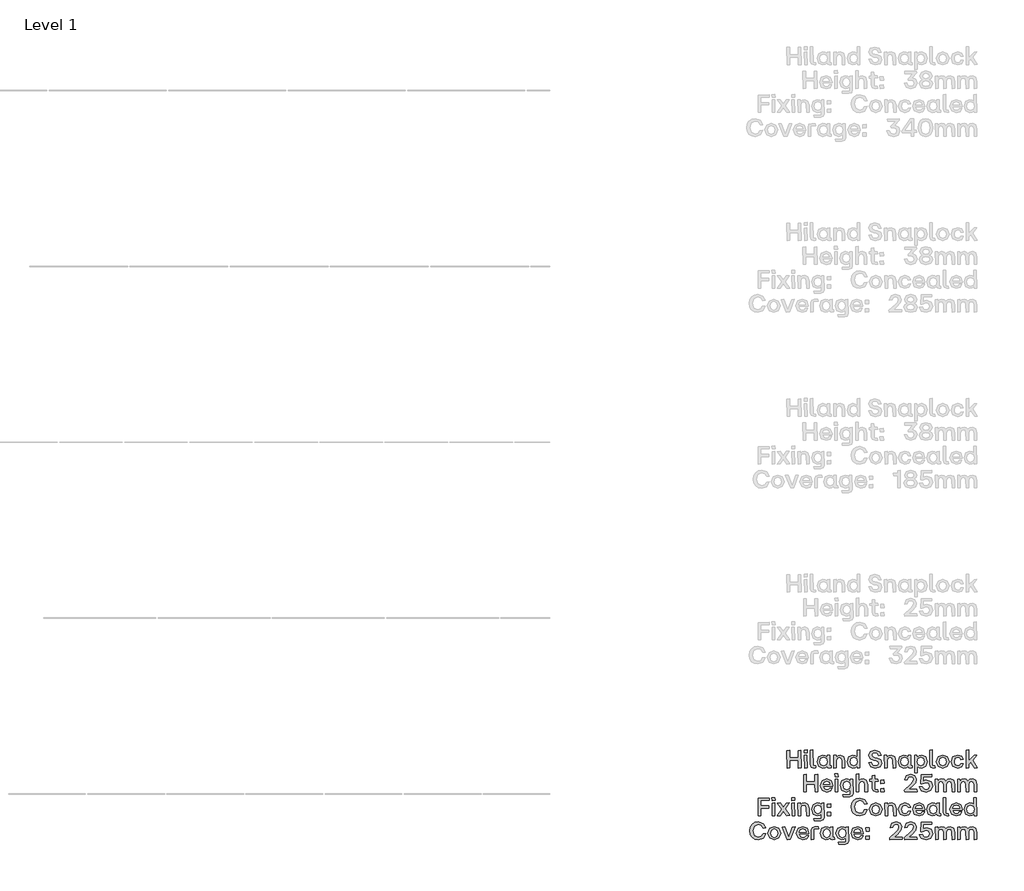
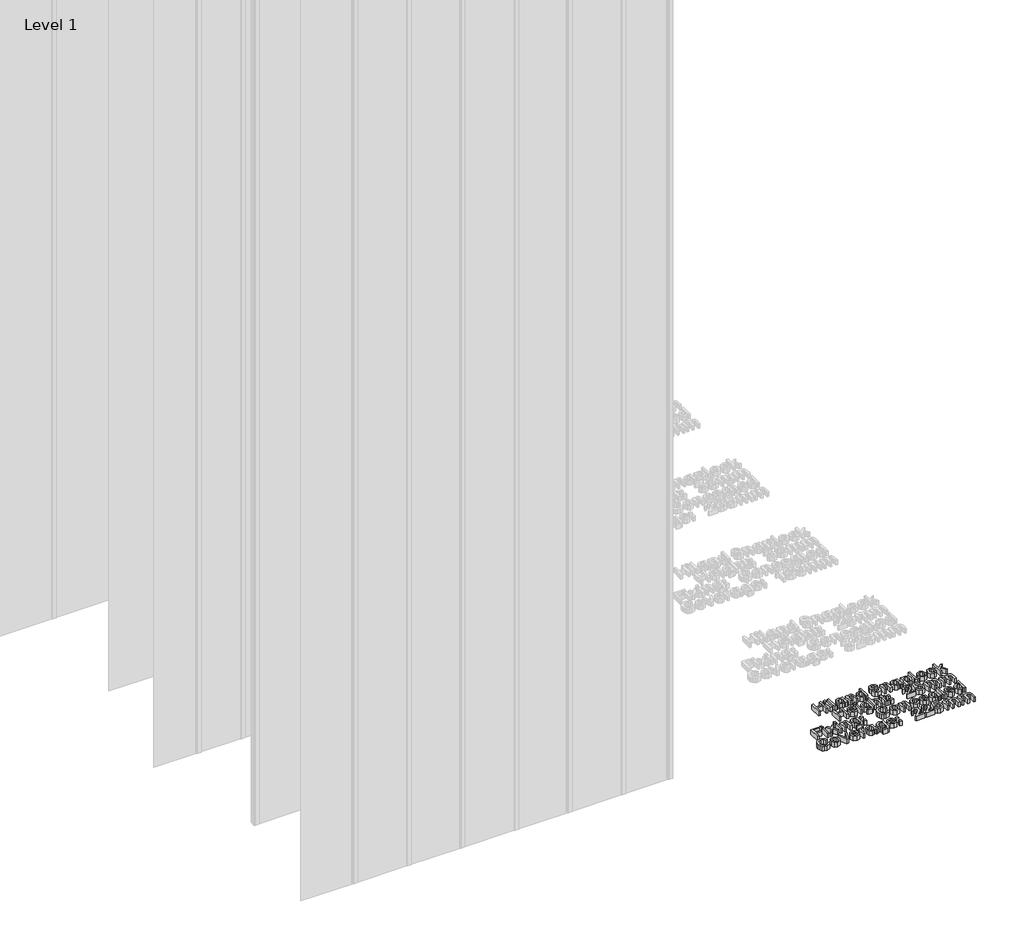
# One storey, part 16 of 64: 1 proxy.
"""IFC4 building model written with IfcOpenShell, lengths in millimetres."""

from ifc_helpers import new_model, si_unit, origin, origin_with_axes, place, context, project, spatial, polyline, outline, extrude, element, save

model = new_model("IFC4")

# Units and contexts
model_context = context("Model", 3, world=origin())
ifc_project = project(units=[si_unit("LENGTHUNIT", "METRE", prefix="MILLI")], contexts=[model_context])

# Site, building, storey
site = spatial("IfcSite", under=ifc_project)
building = spatial("IfcBuilding", under=site)
storey = spatial("IfcBuildingStorey", under=building, Name="Level 1", Elevation=0.0)

# Proxy
placement = place(None, origin())
element("IfcBuildingElementProxy", 1, Name="50mm", ObjectType="50mm", at=placement, inside=storey, context=model_context, shape_type="SweptSolid", body=[
    extrude(outline(polyline([(2488.8278866, -8933.5188866), (2488.1305548, -8911.5808277), (2464.2818068, -8911.5808277), (2464.2818068, -8932.8215548), (2456.7785164, -8933.5188866), (2456.0532913, -8884.2454206), (2463.542635, -8883.5201955), (2464.2818068, -8904.6075096), (2488.1305548, -8904.6075096), (2488.1305548, -8884.2454206), (2495.6198985, -8883.5201955), (2496.3172303, -8932.8215548), (2488.8278866, -8933.5188866)])), origin_with_axes(), (0.0, 0.0, 1.0), 20.0),
    extrude(outline(polyline([(2506.414595, -8933.5188866), (2505.6893699, -8897.8154977), (2512.8997809, -8897.1181659), (2513.5971127, -8932.8215548), (2506.414595, -8933.5188866)])), origin_with_axes(), (0.0, 0.0, 1.0), 20.0),
    extrude(outline(polyline([(2505.4801704, -8890.4516737), (2505.1315045, -8882.4044646), (2513.5273795, -8881.6652929), (2514.2665512, -8890.1030078), (2505.4801704, -8890.4516737)])), origin_with_axes(), (0.0, 0.0, 1.0), 20.0),
    extrude(outline(polyline([(2532.9968838, -8933.5188866), (2525.2983405, -8930.8690257), (2522.6484796, -8923.1565359), (2522.6484796, -8882.8228637), (2529.8588906, -8882.083692), (2530.5562224, -8927.2429003), (2537.2227146, -8927.2429003), (2537.9200464, -8932.8215548), (2532.9968838, -8933.5188866)])), origin_with_axes(), (0.0, 0.0, 1.0), 20.0),
    extrude(outline(polyline([(2558.0868825, -8933.9372857), (2546.3159214, -8928.8955767), (2541.9366776, -8915.3882594), (2546.3159214, -8901.7484491), (2558.0868825, -8896.6579269), (2564.7045614, -8898.2617901), (2569.6904839, -8902.6549805), (2570.0112565, -8897.8154977), (2577.1937742, -8897.1181659), (2577.9189993, -8927.2429003), (2581.8658973, -8927.2429003), (2582.5632291, -8932.8215548), (2576.5661755, -8933.5188866), (2571.9114857, -8932.2113895), (2570.3599224, -8928.288898), (2565.0044141, -8932.3334225), (2558.0868825, -8933.9372857)]), holes=[polyline([(2549.9978334, -8915.3882594), (2552.7522941, -8924.2792401), (2560.2765044, -8927.521833), (2567.6403283, -8924.2931867), (2570.2901892, -8915.3882594), (2567.6194084, -8906.392679), (2560.2765044, -8903.1152195), (2552.7522941, -8906.392679), (2549.9978334, -8915.3882594)])]), origin_with_axes(), (0.0, 0.0, 1.0), 20.0),
    extrude(outline(polyline([(2589.4249742, -8933.5188866), (2588.6997491, -8897.8154977), (2595.5614942, -8897.1181659), (2596.258826, -8902.6549805), (2601.4225681, -8898.1571903), (2608.0437337, -8896.6579269), (2617.6041528, -8900.8419178), (2620.916479, -8913.0870644), (2620.916479, -8932.8215548), (2613.6921214, -8933.5188866), (2612.9668963, -8913.0870644), (2611.0143672, -8905.7092939), (2604.8429806, -8903.3941522), (2598.6158075, -8905.7441604), (2596.6074919, -8913.0870644), (2596.6074919, -8932.8215548), (2589.4249742, -8933.5188866)])), origin_with_axes(), (0.0, 0.0, 1.0), 20.0),
    extrude(outline(polyline([(2643.7750158, -8933.9372857), (2632.0040548, -8928.8955767), (2627.624811, -8915.3882594), (2632.0040548, -8901.7484491), (2643.7750158, -8896.6579269), (2650.3926948, -8898.2617901), (2655.3786172, -8902.6549805), (2655.6993899, -8882.8228637), (2662.8819076, -8882.083692), (2663.6071326, -8932.8215548), (2656.7453876, -8933.5188866), (2656.0480558, -8928.0099653), (2650.6925474, -8932.3334225), (2643.7750158, -8933.9372857)]), holes=[polyline([(2635.6859668, -8915.3882594), (2638.4404275, -8924.2792401), (2645.9646377, -8927.521833), (2653.3284617, -8924.2931867), (2655.9783226, -8915.3882594), (2653.3075417, -8906.392679), (2645.9646377, -8903.1152195), (2638.4404275, -8906.392679), (2635.6859668, -8915.3882594)])]), origin_with_axes(), (0.0, 0.0, 1.0), 20.0),
    extrude(outline(polyline([(2707.7621831, -8933.9372857), (2694.1781594, -8929.823028), (2688.1950524, -8918.1078535), (2695.5588764, -8917.2989486), (2699.7219473, -8924.9417053), (2707.7621831, -8927.1034339), (2714.7145813, -8925.1160383), (2717.2040559, -8919.6001436), (2715.4816463, -8915.0186736), (2709.7147122, -8912.7383985), (2703.1179533, -8911.5808277), (2692.6370561, -8906.8180514), (2689.1434237, -8897.4668318), (2693.6202939, -8886.9022548), (2706.1164801, -8883.1017964), (2718.7102926, -8886.951068), (2724.3168404, -8897.8154977), (2716.9948564, -8898.610456), (2712.9712518, -8891.8672573), (2706.1164801, -8889.9635415), (2699.582481, -8891.706871), (2697.3300992, -8896.7973933), (2699.3384148, -8901.6299027), (2705.6283478, -8904.1612172), (2712.1832668, -8905.3048414), (2722.2806315, -8909.8932847), (2725.4046781, -8919.4606772), (2720.7116349, -8930.1019607), (2707.7621831, -8933.9372857)])), origin_with_axes(), (0.0, 0.0, 1.0), 20.0),
    extrude(outline(polyline([(2734.0236993, -8933.5188866), (2733.2984742, -8897.8154977), (2740.1602192, -8897.1181659), (2740.8575511, -8902.6549805), (2746.0212931, -8898.1571903), (2752.6424587, -8896.6579269), (2762.2028779, -8900.8419178), (2765.515204, -8913.0870644), (2765.515204, -8932.8215548), (2758.2908464, -8933.5188866), (2757.5656213, -8913.0870644), (2755.6130923, -8905.7092939), (2749.4417057, -8903.3941522), (2743.2145326, -8905.7441604), (2741.206217, -8913.0870644), (2741.206217, -8932.8215548), (2734.0236993, -8933.5188866)])), origin_with_axes(), (0.0, 0.0, 1.0), 20.0),
    extrude(outline(polyline([(2788.3737409, -8933.9372857), (2776.6027799, -8928.8955767), (2772.2235361, -8915.3882594), (2776.6027799, -8901.7484491), (2788.3737409, -8896.6579269), (2794.9914198, -8898.2617901), (2799.9773423, -8902.6549805), (2800.2981149, -8897.8154977), (2807.4806326, -8897.1181659), (2808.2058577, -8927.2429003), (2812.1527558, -8927.2429003), (2812.8500876, -8932.8215548), (2806.853034, -8933.5188866), (2802.1983441, -8932.2113895), (2800.6467808, -8928.288898), (2795.2912725, -8932.3334225), (2788.3737409, -8933.9372857)]), holes=[polyline([(2780.2846919, -8915.3882594), (2783.0391525, -8924.2792401), (2790.5633628, -8927.521833), (2797.9271868, -8924.2931867), (2800.5770477, -8915.3882594), (2797.9062668, -8906.392679), (2790.5633628, -8903.1152195), (2783.0391525, -8906.392679), (2780.2846919, -8915.3882594)])]), origin_with_axes(), (0.0, 0.0, 1.0), 20.0),
    extrude(outline(polyline([(2819.7118327, -8947.0750171), (2818.9866076, -8897.8154977), (2825.8483526, -8897.1181659), (2826.5456844, -8902.5852473), (2831.9011928, -8898.2617901), (2838.8187244, -8896.6579269), (2850.5896854, -8901.7135826), (2854.9689292, -8915.2487931), (2850.5896854, -8928.8607101), (2838.8187244, -8933.9372857), (2832.2010455, -8932.3334225), (2827.215123, -8927.9402321), (2826.8943503, -8946.3776853), (2819.7118327, -8947.0750171)]), holes=[polyline([(2826.6154176, -8915.2487931), (2829.2861985, -8924.2443735), (2836.6291025, -8927.521833), (2844.1533128, -8924.2443735), (2846.9077734, -8915.2487931), (2844.1533128, -8906.3578124), (2836.6291025, -8903.1152195), (2829.2652785, -8906.3368925), (2826.6154176, -8915.2487931)])]), origin_with_axes(), (0.0, 0.0, 1.0), 20.0),
    extrude(outline(polyline([(2872.1790784, -8933.5188866), (2864.4805352, -8930.8690257), (2861.8306743, -8923.1565359), (2861.8306743, -8882.8228637), (2869.0410852, -8882.083692), (2869.738417, -8927.2429003), (2876.4049092, -8927.2429003), (2877.102241, -8932.8215548), (2872.1790784, -8933.5188866)])), origin_with_axes(), (0.0, 0.0, 1.0), 20.0),
    extrude(outline(polyline([(2899.3192326, -8933.9372857), (2886.1605813, -8928.8118969), (2881.1188722, -8915.3882594), (2886.1745279, -8901.8530489), (2899.3192326, -8896.6579269), (2912.589457, -8901.8530489), (2917.6590593, -8915.3882594), (2912.589457, -8928.8118969), (2899.3192326, -8933.9372857)]), holes=[polyline([(2889.180028, -8915.3882594), (2891.8787021, -8924.2931867), (2899.3192326, -8927.521833), (2906.8573895, -8924.2792401), (2909.6118502, -8915.3882594), (2906.8713362, -8906.392679), (2899.3192326, -8903.1152195), (2891.8787021, -8906.392679), (2889.180028, -8915.3882594)])]), origin_with_axes(), (0.0, 0.0, 1.0), 20.0),
    extrude(outline(polyline([(2941.4101809, -8933.9372857), (2928.0771966, -8928.8955767), (2923.0703542, -8915.3882594), (2928.1469298, -8901.8530489), (2941.4101809, -8896.6579269), (2952.4838102, -8900.0957727), (2957.6998521, -8909.1820063), (2950.6846941, -8909.9490713), (2947.1143552, -8904.6493495), (2941.4101809, -8903.1152195), (2933.8511041, -8906.392679), (2931.13151, -8915.3882594), (2933.8650507, -8924.3141067), (2941.4101809, -8927.521833), (2947.2886881, -8926.0574362), (2950.266295, -8921.3155799), (2957.3511862, -8920.6461413), (2952.6930097, -8930.4994399), (2941.4101809, -8933.9372857)])), origin_with_axes(), (0.0, 0.0, 1.0), 20.0),
    extrude(outline(polyline([(2966.0957272, -8933.5188866), (2965.3705021, -8882.8228637), (2972.5809131, -8882.083692), (2973.2782449, -8912.8778649), (2988.5219183, -8897.4668318), (2996.4296611, -8897.1181659), (2983.7103288, -8912.0410667), (2997.7964315, -8932.6402485), (2990.1536748, -8933.5188866), (2978.4385003, -8917.2292154), (2973.2782449, -8922.2918444), (2973.2782449, -8932.8215548), (2966.0957272, -8933.5188866)])), origin_with_axes(), (0.0, 0.0, 1.0), 20.0),
    extrude(outline(polyline([(2536.1348769, -9001.3705811), (2535.4375451, -8979.4325222), (2511.5887971, -8979.4325222), (2511.5887971, -9000.6732493), (2504.0855067, -9001.3705811), (2503.3602816, -8952.0971151), (2510.8496253, -8951.37189), (2511.5887971, -8972.459204), (2535.4375451, -8972.459204), (2535.4375451, -8952.0971151), (2542.9268888, -8951.37189), (2543.6242206, -9000.6732493), (2536.1348769, -9001.3705811)])), origin_with_axes(), (0.0, 0.0, 1.0), 20.0),
    extrude(outline(polyline([(2569.2720848, -9001.7889802), (2555.8693673, -8996.7472711), (2550.8625249, -8983.2399539), (2555.8484473, -8969.586197), (2569.2720848, -8964.5096214), (2581.552098, -8969.5164638), (2586.0498882, -8983.1702207), (2586.0498882, -8985.0809099), (2558.9934138, -8985.8200816), (2562.0616738, -8992.8631329), (2569.2720848, -8995.3735275), (2575.0599388, -8994.0974102), (2578.0584656, -8990.520098), (2585.1433569, -8989.9343393), (2580.4851803, -8998.6998002), (2569.2720848, -9001.7889802)]), holes=[polyline([(2559.063147, -8980.0322275), (2578.2676652, -8980.0322275), (2575.6247776, -8973.3866554), (2569.2720848, -8970.966914), (2562.1802202, -8973.2681089), (2559.063147, -8980.0322275)])]), origin_with_axes(), (0.0, 0.0, 1.0), 20.0),
    extrude(outline(polyline([(2592.9534732, -8958.3033682), (2592.6048073, -8950.2561591), (2601.0006823, -8949.5169873), (2601.7398541, -8957.9547023), (2592.9534732, -8958.3033682)])), origin_with_axes(), (0.0, 0.0, 1.0), 20.0),
    extrude(outline(polyline([(2593.8878978, -9001.3705811), (2593.1626727, -8965.6671922), (2600.3730837, -8964.9698603), (2601.0704155, -9000.6732493), (2593.8878978, -9001.3705811)])), origin_with_axes(), (0.0, 0.0, 1.0), 20.0),
    extrude(outline(polyline([(2615.5609706, -9014.9267115), (2614.8217989, -9009.348057), (2636.062526, -9008.6507252), (2636.062526, -8995.7919266), (2630.7558309, -9000.185117), (2624.1381519, -9001.7889802), (2612.3671909, -8996.7124045), (2607.9879471, -8983.1004875), (2612.3671909, -8969.565277), (2624.1381519, -8964.5096214), (2631.0556835, -8966.1134845), (2636.1322591, -8970.4369418), (2636.4111919, -8965.6671922), (2643.2450437, -8964.9698603), (2643.9702687, -9004.9269733), (2641.390141, -9012.3675038), (2633.9705305, -9014.9267115), (2615.5609706, -9014.9267115)]), holes=[polyline([(2616.0491029, -8983.1004875), (2618.8035636, -8992.0960679), (2626.3277738, -8995.3735275), (2633.6706778, -8992.0960679), (2636.3414587, -8983.1004875), (2633.6915978, -8974.1885869), (2626.3277738, -8970.966914), (2618.8035636, -8974.2095069), (2616.0491029, -8983.1004875)])]), origin_with_axes(), (0.0, 0.0, 1.0), 20.0),
    extrude(outline(polyline([(2653.6910742, -9001.3705811), (2652.9658492, -8950.6745581), (2660.1762601, -8949.9353864), (2660.8735919, -8970.2277422), (2665.9606275, -8965.9391516), (2672.3098337, -8964.5096214), (2681.8702529, -8968.6936122), (2685.182579, -8980.9387589), (2685.182579, -9000.6732493), (2677.9582214, -9001.3705811), (2677.2329963, -8980.9387589), (2675.2804672, -8973.5609883), (2669.1090807, -8971.2458467), (2662.8819076, -8973.5958549), (2660.8735919, -8980.9387589), (2660.8735919, -9000.6732493), (2653.6910742, -9001.3705811)])), origin_with_axes(), (0.0, 0.0, 1.0), 20.0),
    extrude(outline(polyline([(2708.459515, -9001.3705811), (2700.7470251, -8998.7207202), (2698.0971642, -8991.0082303), (2698.0971642, -8971.2458467), (2691.890911, -8971.2458467), (2691.165686, -8965.6671922), (2698.0971642, -8964.9698603), (2698.0971642, -8954.9561755), (2705.3215218, -8954.2309504), (2706.0188536, -8964.9698603), (2714.8052345, -8964.9698603), (2715.5304596, -8970.506675), (2706.0188536, -8971.2458467), (2706.0188536, -8995.0945947), (2714.8052345, -8995.0945947), (2715.5304596, -9000.6732493), (2708.459515, -9001.3705811)])), origin_with_axes(), (0.0, 0.0, 1.0), 20.0),
    extrude(outline(polyline([(2722.9361234, -8977.7310326), (2722.2387916, -8968.1078535), (2731.7225043, -8967.3686818), (2732.4477294, -8977.0337007), (2722.9361234, -8977.7310326)])), origin_with_axes(), (0.0, 0.0, 1.0), 20.0),
    extrude(outline(polyline([(2722.5874575, -9001.0219152), (2722.2387916, -8991.747402), (2731.7225043, -8991.0082303), (2732.4477294, -9000.6732493), (2722.5874575, -9001.0219152)])), origin_with_axes(), (0.0, 0.0, 1.0), 20.0),
    extrude(outline(polyline([(2790.4238964, -9001.3705811), (2789.6986714, -8996.5868848), (2807.0622335, -8980.590093), (2814.2098846, -8972.6753769), (2816.1972803, -8965.3882594), (2814.216858, -8959.7084918), (2808.2755909, -8957.8152359), (2801.4068725, -8959.8932847), (2798.5547854, -8966.4621504), (2791.1212283, -8967.1594822), (2795.7096716, -8954.9631488), (2808.2755909, -8950.9534909), (2820.1023385, -8954.8236824), (2824.4257957, -8965.3882594), (2821.7410682, -8975.1648515), (2812.5711549, -8985.5690422), (2803.1153355, -8994.0764903), (2825.8483526, -8994.355423), (2826.5456844, -9000.6732493), (2790.4238964, -9001.3705811)])), origin_with_axes(), (0.0, 0.0, 1.0), 20.0),
    extrude(outline(polyline([(2851.8030428, -9001.7889802), (2838.6025515, -8998.0931215), (2832.7937775, -8987.3821049), (2840.1576015, -8986.5871466), (2844.365999, -8993.0200326), (2851.8030428, -8994.9551284), (2859.2087066, -8992.2704009), (2861.802781, -8984.6625108), (2859.2226533, -8977.3614467), (2851.6635764, -8974.8719721), (2841.3012256, -8978.8049235), (2836.4617428, -8978.5259908), (2837.5077406, -8952.0971151), (2867.1443427, -8951.37189), (2867.8695678, -8957.6757696), (2844.1602861, -8958.3731014), (2843.3653278, -8971.0366471), (2848.5395299, -8968.8400519), (2854.2437041, -8968.0381203), (2865.7984923, -8972.4661774), (2870.0034031, -8984.6625108), (2865.1918136, -8997.27027), (2851.8030428, -9001.7889802)])), origin_with_axes(), (0.0, 0.0, 1.0), 20.0),
    extrude(outline(polyline([(2878.6224244, -9001.3705811), (2877.8971993, -8965.6671922), (2884.7589443, -8964.9698603), (2885.4562761, -8970.506675), (2890.4421986, -8966.0088848), (2896.8925179, -8964.5096214), (2903.1789642, -8966.0088848), (2907.394335, -8970.506675), (2913.2170557, -8966.0646713), (2920.4623332, -8964.5096214), (2929.7368464, -8968.6796656), (2932.9445727, -8980.9387589), (2932.9445727, -9000.6732493), (2925.7341617, -9001.3705811), (2925.0368299, -8980.9387589), (2923.154034, -8973.5609883), (2917.1848737, -8971.2458467), (2911.2784732, -8973.5958549), (2909.3747574, -8980.9387589), (2909.3747574, -9000.6732493), (2902.1643464, -9001.3705811), (2901.4670146, -8980.9387589), (2899.5981653, -8973.5609883), (2893.6847915, -8971.2458467), (2887.7086579, -8973.5958549), (2885.804942, -8980.9387589), (2885.804942, -9000.6732493), (2878.6224244, -9001.3705811)])), origin_with_axes(), (0.0, 0.0, 1.0), 20.0),
    extrude(outline(polyline([(2941.9959397, -9001.3705811), (2941.2707146, -8965.6671922), (2948.1324596, -8964.9698603), (2948.8297914, -8970.506675), (2953.8157139, -8966.0088848), (2960.2660332, -8964.5096214), (2966.5524795, -8966.0088848), (2970.7678503, -8970.506675), (2976.590571, -8966.0646713), (2983.8358485, -8964.5096214), (2993.1103617, -8968.6796656), (2996.318088, -8980.9387589), (2996.318088, -9000.6732493), (2989.1076771, -9001.3705811), (2988.4103452, -8980.9387589), (2986.5275493, -8973.5609883), (2980.558389, -8971.2458467), (2974.6519885, -8973.5958549), (2972.7482727, -8980.9387589), (2972.7482727, -9000.6732493), (2965.5378617, -9001.3705811), (2964.8405299, -8980.9387589), (2962.9716806, -8973.5609883), (2957.0583069, -8971.2458467), (2951.0821732, -8973.5958549), (2949.1784574, -8980.9387589), (2949.1784574, -9000.6732493), (2941.9959397, -9001.3705811)])), origin_with_axes(), (0.0, 0.0, 1.0), 20.0),
    extrude(outline(polyline([(2374.6607219, -9069.2222755), (2373.9354969, -9019.9488095), (2405.5246281, -9019.2235844), (2406.2219599, -9025.527464), (2382.1640123, -9026.2247958), (2382.1640123, -9041.287163), (2404.0881245, -9041.287163), (2404.7854563, -9047.5631494), (2382.1640123, -9048.3023211), (2382.1640123, -9068.5249437), (2374.6607219, -9069.2222755)])), origin_with_axes(), (0.0, 0.0, 1.0), 20.0),
    extrude(outline(polyline([(2414.4783686, -9069.2222755), (2413.7531435, -9033.5188866), (2420.9635544, -9032.8215548), (2421.6608863, -9068.5249437), (2414.4783686, -9069.2222755)])), origin_with_axes(), (0.0, 0.0, 1.0), 20.0),
    extrude(outline(polyline([(2413.5439439, -9026.1550627), (2413.195278, -9018.1078535), (2421.5911531, -9017.3686818), (2422.3303248, -9025.8063967), (2413.5439439, -9026.1550627)])), origin_with_axes(), (0.0, 0.0, 1.0), 20.0),
    extrude(outline(polyline([(2428.5784179, -9069.2222755), (2441.3395901, -9050.7429824), (2429.1362833, -9033.658353), (2437.1277059, -9032.8215548), (2445.9140868, -9044.815662), (2454.1426022, -9033.2399539), (2462.2595445, -9032.8215548), (2450.6559431, -9049.9340775), (2463.696048, -9068.3436374), (2455.7046254, -9069.2222755), (2445.9838199, -9055.7916648), (2436.7093068, -9068.8038764), (2428.5784179, -9069.2222755)])), origin_with_axes(), (0.0, 0.0, 1.0), 20.0),
    extrude(outline(polyline([(2470.7112061, -9069.2222755), (2469.985981, -9033.5188866), (2477.196392, -9032.8215548), (2477.8937238, -9068.5249437), (2470.7112061, -9069.2222755)])), origin_with_axes(), (0.0, 0.0, 1.0), 20.0),
    extrude(outline(polyline([(2469.7767815, -9026.1550627), (2469.4281156, -9018.1078535), (2477.8239906, -9017.3686818), (2478.5631623, -9025.8063967), (2469.7767815, -9026.1550627)])), origin_with_axes(), (0.0, 0.0, 1.0), 20.0),
    extrude(outline(polyline([(2487.6703158, -9069.2222755), (2486.9450907, -9033.5188866), (2493.8068358, -9032.8215548), (2494.5041676, -9038.3583694), (2499.6679097, -9033.8605792), (2506.2890753, -9032.3613158), (2515.8494944, -9036.5453067), (2519.1618206, -9048.7904534), (2519.1618206, -9068.5249437), (2511.937463, -9069.2222755), (2511.2122379, -9048.7904534), (2509.2597088, -9041.4126828), (2503.0883222, -9039.0975411), (2496.8611491, -9041.4475493), (2494.8528335, -9048.7904534), (2494.8528335, -9068.5249437), (2487.6703158, -9069.2222755)])), origin_with_axes(), (0.0, 0.0, 1.0), 20.0),
    extrude(outline(polyline([(2533.4431761, -9082.778406), (2532.7040044, -9077.1997515), (2553.9447315, -9076.5024197), (2553.9447315, -9063.643621), (2548.6380364, -9068.0368114), (2542.0203574, -9069.6406746), (2530.2493964, -9064.564099), (2525.8701526, -9050.952182), (2530.2493964, -9037.4169715), (2542.0203574, -9032.3613158), (2548.9378891, -9033.965179), (2554.0144647, -9038.2886362), (2554.2933974, -9033.5188866), (2561.1272492, -9032.8215548), (2561.8524743, -9072.7786678), (2559.2723465, -9080.2191982), (2551.852736, -9082.778406), (2533.4431761, -9082.778406)]), holes=[polyline([(2533.9313084, -9050.952182), (2536.6857691, -9059.9477624), (2544.2099793, -9063.2252219), (2551.5528834, -9059.9477624), (2554.2236642, -9050.952182), (2551.5738033, -9042.0402814), (2544.2099793, -9038.8186084), (2536.6857691, -9042.0612013), (2533.9313084, -9050.952182)])]), origin_with_axes(), (0.0, 0.0, 1.0), 20.0),
    extrude(outline(polyline([(2570.8480547, -9068.8736096), (2570.4993888, -9059.5990965), (2579.9831014, -9058.8599248), (2580.7083265, -9068.5249437), (2570.8480547, -9068.8736096)])), origin_with_axes(), (0.0, 0.0, 1.0), 20.0),
    extrude(outline(polyline([(2571.1967206, -9045.582727), (2570.4993888, -9035.959548), (2579.9831014, -9035.2203762), (2580.7083265, -9044.8853952), (2571.1967206, -9045.582727)])), origin_with_axes(), (0.0, 0.0, 1.0), 20.0),
    extrude(outline(polyline([(2662.9516407, -9069.6406746), (2652.9449292, -9067.9269817), (2645.2394126, -9062.7859029), (2640.3232234, -9054.7160305), (2638.6844936, -9044.2159567), (2640.33717, -9033.8919591), (2645.2951992, -9025.7924501), (2653.0146624, -9020.5520015), (2662.9516407, -9018.8051853), (2677.1283965, -9023.4215219), (2684.0807947, -9035.7085085), (2676.7588107, -9036.5174134), (2671.5950686, -9028.3272513), (2662.9516407, -9025.8063967), (2651.2922528, -9030.743506), (2647.0524754, -9044.2159567), (2651.2713328, -9057.7999804), (2662.9516407, -9062.6673565), (2671.7659149, -9060.1813685), (2676.4519847, -9052.7234048), (2683.8715952, -9052.0679129), (2677.4073293, -9065.0382846), (2662.9516407, -9069.6406746)])), origin_with_axes(), (0.0, 0.0, 1.0), 20.0),
    extrude(outline(polyline([(2708.306102, -9069.6406746), (2695.1474506, -9064.5152858), (2690.1057416, -9051.0916483), (2695.1613973, -9037.5564378), (2708.306102, -9032.3613158), (2721.5763264, -9037.5564378), (2726.6459287, -9051.0916483), (2721.5763264, -9064.5152858), (2708.306102, -9069.6406746)]), holes=[polyline([(2698.1668974, -9051.0916483), (2700.8655715, -9059.9965756), (2708.306102, -9063.2252219), (2715.8442589, -9059.982629), (2718.5987195, -9051.0916483), (2715.8582055, -9042.0960679), (2708.306102, -9038.8186084), (2700.8655715, -9042.0960679), (2698.1668974, -9051.0916483)])]), origin_with_axes(), (0.0, 0.0, 1.0), 20.0),
    extrude(outline(polyline([(2734.916284, -9069.2222755), (2734.1910589, -9033.5188866), (2741.052804, -9032.8215548), (2741.7501358, -9038.3583694), (2746.9138779, -9033.8605792), (2753.5350435, -9032.3613158), (2763.0954626, -9036.5453067), (2766.4077887, -9048.7904534), (2766.4077887, -9068.5249437), (2759.1834311, -9069.2222755), (2758.4582061, -9048.7904534), (2756.505677, -9041.4126828), (2750.3342904, -9039.0975411), (2744.1071173, -9041.4475493), (2742.0988017, -9048.7904534), (2742.0988017, -9068.5249437), (2734.916284, -9069.2222755)])), origin_with_axes(), (0.0, 0.0, 1.0), 20.0),
    extrude(outline(polyline([(2791.4559475, -9069.6406746), (2778.1229632, -9064.5989656), (2773.1161208, -9051.0916483), (2778.1926964, -9037.5564378), (2791.4559475, -9032.3613158), (2802.5295767, -9035.7991616), (2807.7456187, -9044.8853952), (2800.7304607, -9045.6524602), (2797.1601218, -9040.3527384), (2791.4559475, -9038.8186084), (2783.8968707, -9042.0960679), (2781.1772766, -9051.0916483), (2783.9108173, -9060.0174956), (2791.4559475, -9063.2252219), (2797.3344547, -9061.7608251), (2800.3120616, -9057.0189688), (2807.3969528, -9056.3495302), (2802.7387763, -9066.2028288), (2791.4559475, -9069.6406746)])), origin_with_axes(), (0.0, 0.0, 1.0), 20.0),
    extrude(outline(polyline([(2831.6919932, -9069.6406746), (2818.2892758, -9064.5989656), (2813.2824333, -9051.0916483), (2818.2683558, -9037.4378914), (2831.6919932, -9032.3613158), (2843.9720065, -9037.3681582), (2848.4697967, -9051.0219152), (2848.4697967, -9052.9326043), (2821.4133223, -9053.6717761), (2824.4815823, -9060.7148274), (2831.6919932, -9063.2252219), (2837.4798473, -9061.9491047), (2840.4783741, -9058.3717925), (2847.5632653, -9057.7860338), (2842.9050888, -9066.5514947), (2831.6919932, -9069.6406746)]), holes=[polyline([(2821.4830555, -9047.883922), (2840.6875736, -9047.883922), (2838.0446861, -9041.2383498), (2831.6919932, -9038.8186084), (2824.6001287, -9041.1198034), (2821.4830555, -9047.883922)])]), origin_with_axes(), (0.0, 0.0, 1.0), 20.0),
    extrude(outline(polyline([(2869.5989507, -9069.6406746), (2857.8279896, -9064.5989656), (2853.4487458, -9051.0916483), (2857.8279896, -9037.4518381), (2869.5989507, -9032.3613158), (2876.2166296, -9033.965179), (2881.2025521, -9038.3583694), (2881.5233247, -9033.5188866), (2888.7058424, -9032.8215548), (2889.4310675, -9062.9462892), (2893.3779655, -9062.9462892), (2894.0752974, -9068.5249437), (2888.0782438, -9069.2222755), (2883.4235539, -9067.9147784), (2881.8719906, -9063.9922869), (2876.5164823, -9068.0368114), (2869.5989507, -9069.6406746)]), holes=[polyline([(2861.5099016, -9051.0916483), (2864.2643623, -9059.982629), (2871.7885726, -9063.2252219), (2879.1523965, -9059.9965756), (2881.8022574, -9051.0916483), (2879.1314766, -9042.0960679), (2871.7885726, -9038.8186084), (2864.2643623, -9042.0960679), (2861.5099016, -9051.0916483)])]), origin_with_axes(), (0.0, 0.0, 1.0), 20.0),
    extrude(outline(polyline([(2910.5602215, -9069.2222755), (2902.8616782, -9066.5724146), (2900.2118173, -9058.8599248), (2900.2118173, -9018.5262526), (2907.4222283, -9017.7870809), (2908.1195601, -9062.9462892), (2914.7860523, -9062.9462892), (2915.4833841, -9068.5249437), (2910.5602215, -9069.2222755)])), origin_with_axes(), (0.0, 0.0, 1.0), 20.0),
    extrude(outline(polyline([(2937.9095752, -9069.6406746), (2924.5068578, -9064.5989656), (2919.5000153, -9051.0916483), (2924.4859378, -9037.4378914), (2937.9095752, -9032.3613158), (2950.1895885, -9037.3681582), (2954.6873787, -9051.0219152), (2954.6873787, -9052.9326043), (2927.6309043, -9053.6717761), (2930.6991643, -9060.7148274), (2937.9095752, -9063.2252219), (2943.6974293, -9061.9491047), (2946.6959561, -9058.3717925), (2953.7808473, -9057.7860338), (2949.1226708, -9066.5514947), (2937.9095752, -9069.6406746)]), holes=[polyline([(2927.7006375, -9047.883922), (2946.9051556, -9047.883922), (2944.2622681, -9041.2383498), (2937.9095752, -9038.8186084), (2930.8177107, -9041.1198034), (2927.7006375, -9047.883922)])]), origin_with_axes(), (0.0, 0.0, 1.0), 20.0),
    extrude(outline(polyline([(2975.8165327, -9069.6406746), (2964.0455716, -9064.5989656), (2959.6663278, -9051.0916483), (2964.0455716, -9037.4518381), (2975.8165327, -9032.3613158), (2982.4342116, -9033.965179), (2987.4201341, -9038.3583694), (2987.7409067, -9018.5262526), (2994.9234244, -9017.7870809), (2995.6486495, -9068.5249437), (2988.7869044, -9069.2222755), (2988.0895726, -9063.7133542), (2982.7340643, -9068.0368114), (2975.8165327, -9069.6406746)]), holes=[polyline([(2967.7274836, -9051.0916483), (2970.4819443, -9059.982629), (2978.0061546, -9063.2252219), (2985.3699785, -9059.9965756), (2988.0198394, -9051.0916483), (2985.3490586, -9042.0960679), (2978.0061546, -9038.8186084), (2970.4819443, -9042.0960679), (2967.7274836, -9051.0916483)])]), origin_with_axes(), (0.0, 0.0, 1.0), 20.0),
    extrude(outline(polyline([(2374.6467753, -9137.4923691), (2364.6400638, -9135.7786761), (2356.9345472, -9130.6375973), (2352.0183579, -9122.5677249), (2350.3796282, -9112.0676511), (2352.0323046, -9101.7436536), (2356.9903338, -9093.6441446), (2364.709797, -9088.403696), (2374.6467753, -9086.6568798), (2388.8235311, -9091.2732164), (2395.7759293, -9103.560203), (2388.4539452, -9104.3691079), (2383.2902032, -9096.1789457), (2374.6467753, -9093.6580912), (2362.9873874, -9098.5952004), (2358.7476099, -9112.0676511), (2362.9664674, -9125.6516749), (2374.6467753, -9130.5190509), (2383.4610494, -9128.033063), (2388.1471192, -9120.5750992), (2395.5667297, -9119.9196073), (2389.1024638, -9132.8899791), (2374.6467753, -9137.4923691)])), origin_with_axes(), (0.0, 0.0, 1.0), 20.0),
    extrude(outline(polyline([(2420.0012365, -9137.4923691), (2406.8425852, -9132.3669802), (2401.8008762, -9118.9433428), (2406.8565318, -9105.4081323), (2420.0012365, -9100.2130103), (2433.271461, -9105.4081323), (2438.3410633, -9118.9433428), (2433.271461, -9132.3669802), (2420.0012365, -9137.4923691)]), holes=[polyline([(2409.8620319, -9118.9433428), (2412.5607061, -9127.8482701), (2420.0012365, -9131.0769164), (2427.5393934, -9127.8343234), (2430.2938541, -9118.9433428), (2427.5533401, -9109.9477624), (2420.0012365, -9106.6703029), (2412.5607061, -9109.9477624), (2409.8620319, -9118.9433428)])]), origin_with_axes(), (0.0, 0.0, 1.0), 20.0),
    extrude(outline(polyline([(2456.4437972, -9137.07397), (2442.0508685, -9101.5100474), (2449.3031194, -9100.6732493), (2460.7393611, -9130.5887841), (2471.5758975, -9101.2311147), (2478.9397215, -9100.6732493), (2465.8298834, -9136.5161045), (2456.4437972, -9137.07397)])), origin_with_axes(), (0.0, 0.0, 1.0), 20.0),
    extrude(outline(polyline([(2501.4356458, -9137.4923691), (2488.0329284, -9132.45066), (2483.0260859, -9118.9433428), (2488.0120084, -9105.2895859), (2501.4356458, -9100.2130103), (2513.7156591, -9105.2198527), (2518.2134493, -9118.8736096), (2518.2134493, -9120.7842988), (2491.1569749, -9121.5234705), (2494.2252349, -9128.5665218), (2501.4356458, -9131.0769164), (2507.2234999, -9129.8007992), (2510.2220267, -9126.2234869), (2517.3069179, -9125.6377282), (2512.6487414, -9134.4031891), (2501.4356458, -9137.4923691)]), holes=[polyline([(2491.2267081, -9115.7356165), (2510.4312262, -9115.7356165), (2507.7883387, -9109.0900443), (2501.4356458, -9106.6703029), (2494.3437813, -9108.9714978), (2491.2267081, -9115.7356165)])]), origin_with_axes(), (0.0, 0.0, 1.0), 20.0),
    extrude(outline(polyline([(2525.6748997, -9137.07397), (2524.9775679, -9110.9937601), (2527.6274288, -9103.3021902), (2535.325972, -9100.6732493), (2545.4791232, -9100.6732493), (2546.1764551, -9106.6703029), (2532.8853107, -9107.3676347), (2532.8853107, -9136.3766382), (2525.6748997, -9137.07397)])), origin_with_axes(), (0.0, 0.0, 1.0), 20.0),
    extrude(outline(polyline([(2567.0127297, -9137.4923691), (2555.2417687, -9132.45066), (2550.8625249, -9118.9433428), (2555.2417687, -9105.3035325), (2567.0127297, -9100.2130103), (2573.6304086, -9101.8168734), (2578.6163311, -9106.2100639), (2578.9371037, -9101.3705811), (2586.1196214, -9100.6732493), (2586.8448465, -9130.7979836), (2590.7917446, -9130.7979836), (2591.4890764, -9136.3766382), (2585.4920228, -9137.07397), (2580.8373329, -9135.7664728), (2579.2857696, -9131.8439814), (2573.9302613, -9135.8885059), (2567.0127297, -9137.4923691)]), holes=[polyline([(2558.9236806, -9118.9433428), (2561.6781413, -9127.8343234), (2569.2023516, -9131.0769164), (2576.5661755, -9127.8482701), (2579.2160364, -9118.9433428), (2576.5452556, -9109.9477624), (2569.2023516, -9106.6703029), (2561.6781413, -9109.9477624), (2558.9236806, -9118.9433428)])]), origin_with_axes(), (0.0, 0.0, 1.0), 20.0),
    extrude(outline(polyline([(2603.0647845, -9150.6301005), (2602.3256128, -9145.0514459), (2623.5663398, -9144.3541141), (2623.5663398, -9131.4953155), (2618.2596447, -9135.8885059), (2611.6419658, -9137.4923691), (2599.8710048, -9132.4157935), (2595.491761, -9118.8038764), (2599.8710048, -9105.2686659), (2611.6419658, -9100.2130103), (2618.5594974, -9101.8168734), (2623.636073, -9106.1403307), (2623.9150058, -9101.3705811), (2630.7488575, -9100.6732493), (2631.4740826, -9140.6303622), (2628.8939549, -9148.0708927), (2621.4743444, -9150.6301005), (2603.0647845, -9150.6301005)]), holes=[polyline([(2603.5529168, -9118.8038764), (2606.3073774, -9127.7994568), (2613.8315877, -9131.0769164), (2621.1744917, -9127.7994568), (2623.8452726, -9118.8038764), (2621.1954117, -9109.8919758), (2613.8315877, -9106.6703029), (2606.3073774, -9109.9128958), (2603.5529168, -9118.8038764)])]), origin_with_axes(), (0.0, 0.0, 1.0), 20.0),
    extrude(outline(polyline([(2656.7453876, -9137.4923691), (2643.3426701, -9132.45066), (2638.3358277, -9118.9433428), (2643.3217502, -9105.2895859), (2656.7453876, -9100.2130103), (2669.0254008, -9105.2198527), (2673.523191, -9118.8736096), (2673.523191, -9120.7842988), (2646.4667166, -9121.5234705), (2649.5349766, -9128.5665218), (2656.7453876, -9131.0769164), (2662.5332416, -9129.8007992), (2665.5317684, -9126.2234869), (2672.6166597, -9125.6377282), (2667.9584832, -9134.4031891), (2656.7453876, -9137.4923691)]), holes=[polyline([(2646.5364498, -9115.7356165), (2665.740968, -9115.7356165), (2663.0980804, -9109.0900443), (2656.7453876, -9106.6703029), (2649.653523, -9108.9714978), (2646.5364498, -9115.7356165)])]), origin_with_axes(), (0.0, 0.0, 1.0), 20.0),
    extrude(outline(polyline([(2680.9846415, -9113.4344215), (2680.2873096, -9103.8112424), (2689.7710223, -9103.0720707), (2690.4962474, -9112.7370896), (2680.9846415, -9113.4344215)])), origin_with_axes(), (0.0, 0.0, 1.0), 20.0),
    extrude(outline(polyline([(2680.6359756, -9136.7253041), (2680.2873096, -9127.4507909), (2689.7710223, -9126.7116192), (2690.4962474, -9136.3766382), (2680.6359756, -9136.7253041)])), origin_with_axes(), (0.0, 0.0, 1.0), 20.0),
    extrude(outline(polyline([(2748.4724145, -9137.07397), (2747.7471894, -9132.2902737), (2765.1107516, -9116.2934819), (2772.2584027, -9108.3787658), (2774.2457983, -9101.0916483), (2772.265376, -9095.4118807), (2766.3241089, -9093.5186248), (2759.4553906, -9095.5966736), (2756.6033034, -9102.1655393), (2749.1697463, -9102.8628712), (2753.7581896, -9090.6665377), (2766.3241089, -9086.6568798), (2778.1508565, -9090.5270714), (2782.4743138, -9101.0916483), (2779.7895863, -9110.8682404), (2770.6196729, -9121.2724311), (2761.1638535, -9129.7798792), (2783.8968707, -9130.0588119), (2784.5942025, -9136.3766382), (2748.4724145, -9137.07397)])), origin_with_axes(), (0.0, 0.0, 1.0), 20.0),
    extrude(outline(polyline([(2790.4238964, -9137.07397), (2789.6986714, -9132.2902737), (2807.0622335, -9116.2934819), (2814.2098846, -9108.3787658), (2816.1972803, -9101.0916483), (2814.216858, -9095.4118807), (2808.2755909, -9093.5186248), (2801.4068725, -9095.5966736), (2798.5547854, -9102.1655393), (2791.1212283, -9102.8628712), (2795.7096716, -9090.6665377), (2808.2755909, -9086.6568798), (2820.1023385, -9090.5270714), (2824.4257957, -9101.0916483), (2821.7410682, -9110.8682404), (2812.5711549, -9121.2724311), (2803.1153355, -9129.7798792), (2825.8483526, -9130.0588119), (2826.5456844, -9136.3766382), (2790.4238964, -9137.07397)])), origin_with_axes(), (0.0, 0.0, 1.0), 20.0),
    extrude(outline(polyline([(2851.8030428, -9137.4923691), (2838.6025515, -9133.7965104), (2832.7937775, -9123.0854938), (2840.1576015, -9122.2905355), (2844.365999, -9128.7234215), (2851.8030428, -9130.6585173), (2859.2087066, -9127.9737898), (2861.802781, -9120.3658997), (2859.2226533, -9113.0648356), (2851.6635764, -9110.575361), (2841.3012256, -9114.5083125), (2836.4617428, -9114.2293797), (2837.5077406, -9087.800504), (2867.1443427, -9087.0752789), (2867.8695678, -9093.3791585), (2844.1602861, -9094.0764903), (2843.3653278, -9106.740036), (2848.5395299, -9104.5434408), (2854.2437041, -9103.7415092), (2865.7984923, -9108.1695663), (2870.0034031, -9120.3658997), (2865.1918136, -9132.9736589), (2851.8030428, -9137.4923691)])), origin_with_axes(), (0.0, 0.0, 1.0), 20.0),
    extrude(outline(polyline([(2878.6224244, -9137.07397), (2877.8971993, -9101.3705811), (2884.7589443, -9100.6732493), (2885.4562761, -9106.2100639), (2890.4421986, -9101.7122737), (2896.8925179, -9100.2130103), (2903.1789642, -9101.7122737), (2907.394335, -9106.2100639), (2913.2170557, -9101.7680602), (2920.4623332, -9100.2130103), (2929.7368464, -9104.3830545), (2932.9445727, -9116.6421478), (2932.9445727, -9136.3766382), (2925.7341617, -9137.07397), (2925.0368299, -9116.6421478), (2923.154034, -9109.2643772), (2917.1848737, -9106.9492356), (2911.2784732, -9109.2992438), (2909.3747574, -9116.6421478), (2909.3747574, -9136.3766382), (2902.1643464, -9137.07397), (2901.4670146, -9116.6421478), (2899.5981653, -9109.2643772), (2893.6847915, -9106.9492356), (2887.7086579, -9109.2992438), (2885.804942, -9116.6421478), (2885.804942, -9136.3766382), (2878.6224244, -9137.07397)])), origin_with_axes(), (0.0, 0.0, 1.0), 20.0),
    extrude(outline(polyline([(2941.9959397, -9137.07397), (2941.2707146, -9101.3705811), (2948.1324596, -9100.6732493), (2948.8297914, -9106.2100639), (2953.8157139, -9101.7122737), (2960.2660332, -9100.2130103), (2966.5524795, -9101.7122737), (2970.7678503, -9106.2100639), (2976.590571, -9101.7680602), (2983.8358485, -9100.2130103), (2993.1103617, -9104.3830545), (2996.318088, -9116.6421478), (2996.318088, -9136.3766382), (2989.1076771, -9137.07397), (2988.4103452, -9116.6421478), (2986.5275493, -9109.2643772), (2980.558389, -9106.9492356), (2974.6519885, -9109.2992438), (2972.7482727, -9116.6421478), (2972.7482727, -9136.3766382), (2965.5378617, -9137.07397), (2964.8405299, -9116.6421478), (2962.9716806, -9109.2643772), (2957.0583069, -9106.9492356), (2951.0821732, -9109.2992438), (2949.1784574, -9116.6421478), (2949.1784574, -9136.3766382), (2941.9959397, -9137.07397)])), origin_with_axes(), (0.0, 0.0, 1.0), 20.0),
])

save(model, "model.ifc")
